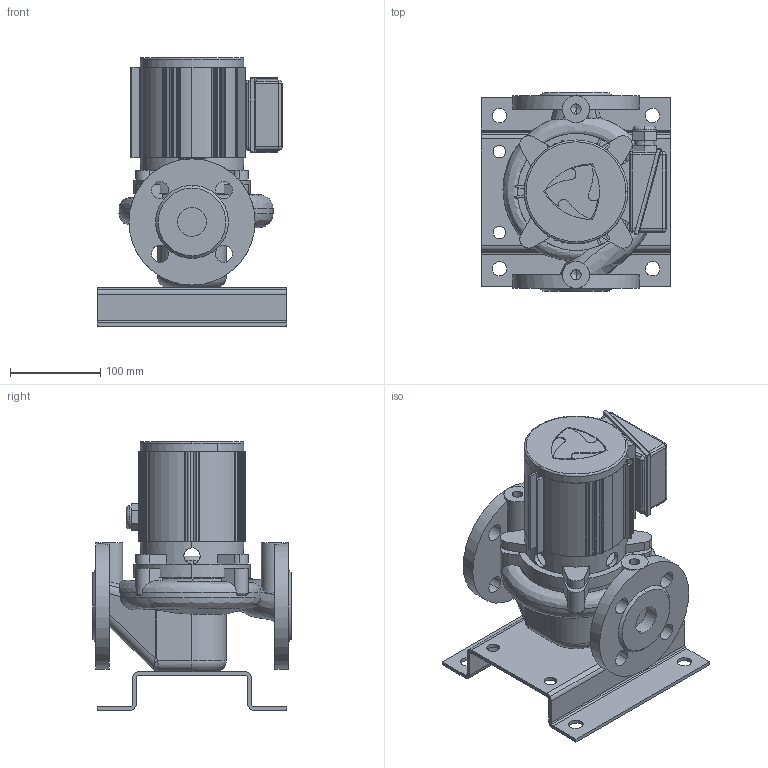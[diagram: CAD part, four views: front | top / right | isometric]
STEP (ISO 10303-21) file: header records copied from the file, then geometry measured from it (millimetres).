
FILE_DESCRIPTION(('STEP AP214'),'1');
FILE_NAME('export.stp','2018-05-29T08:56:44',(' '),(' '),'Spatial InterOp 3D',' ',' ');
FILE_SCHEMA(('AUTOMOTIVE_DESIGN { 1 0 10303 214 1 1 1 1 }'));
Length unit declared in the file: millimetre
Products named in the file (9): V_MOP732742; RU_OP_732_742; TKILPI_OP_7; KYTKOTELO_OP7_OKN8; W_L32A4800; V_EKN12OP7; V_TLL32AAP15AKP25; V_PPL32A; V_JALKA35973
Assembly tree (8 placements, depth 3):
  W_L32A4800
    V_MOP732742
      RU_OP_732_742
      TKILPI_OP_7
      KYTKOTELO_OP7_OKN8
    V_EKN12OP7
    V_TLL32AAP15AKP25
    V_PPL32A
    V_JALKA35973
Bounding box: 210 x 220 x 298.5 mm (x, y, z)
Volume: 2798035.2 mm3; surface area: 525714.7 mm2
Topology: 7 solids, 8 shells, 562 faces, 1520 edges, 969 vertices
Faces by surface type: cylinder 318, plane 151, bspline 50, cone 16, sphere 14, torus 13
Entity records: 33138 total; most frequent: CARTESIAN_POINT 9377, DIRECTION 3042, ORIENTED_EDGE 3000, STYLED_ITEM 1536, PRESENTATION_STYLE_ASSIGNMENT 1536, COLOUR_RGB 1536, EDGE_CURVE 1500, AXIS2_PLACEMENT_3D 1229
